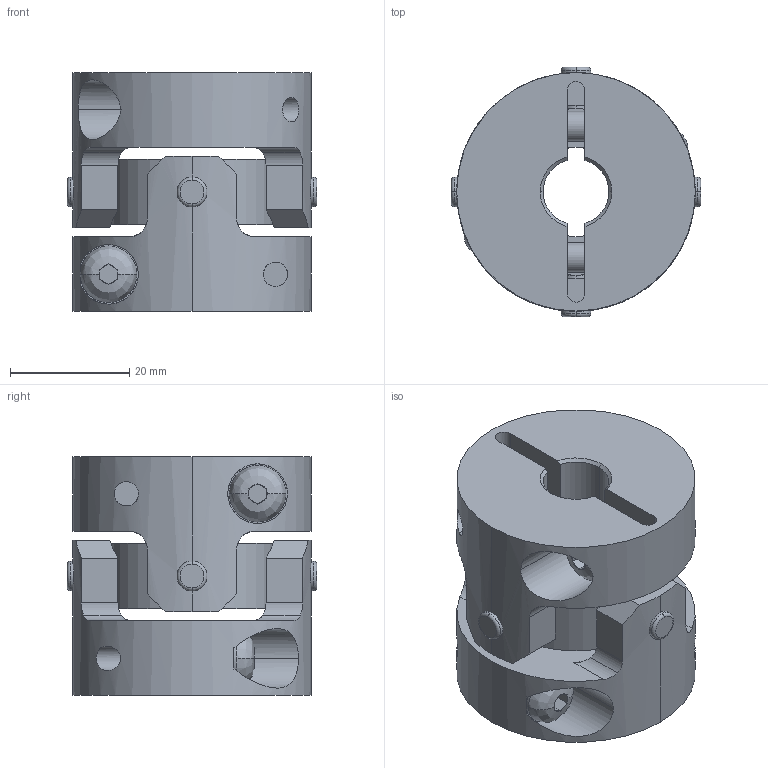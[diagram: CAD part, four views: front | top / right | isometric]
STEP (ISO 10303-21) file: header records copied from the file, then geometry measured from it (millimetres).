
FILE_DESCRIPTION((''),'2;1');
FILE_NAME('UA-40C-11×20.stp','2013-05-22T08:55:27',(''),(''),'AutoCAD STEP 2000i','AutoCAD 2000i',', , ');
FILE_SCHEMA(('CONFIG_CONTROL_DESIGN'));
Length unit declared in the file: millimetre
Products named in the file (7): UA-40C-8×18; 忣兜1; UA-4002-D18; BTN-M5; UA-4002-D08-1; UA-4002-D08; UA40-SEN
Assembly tree (8 placements, depth 3):
  UA-40C-8×18
    忣兜1
    UA-4002-D18
      BTN-M5
    UA-4002-D08-1
      BTN-M5
    UA-4002-D08
      BTN-M5
    UA40-SEN
Bounding box: 41.81 x 41.81 x 40 mm (x, y, z)
Volume: 32340.8 mm3; surface area: 15107.9 mm2
Topology: 1 solids, 1 shells, 252 faces, 654 edges, 412 vertices
Faces by surface type: plane 124, cylinder 96, cone 16, bspline 8, torus 8
Entity records: 9705 total; most frequent: CARTESIAN_POINT 3363, DIRECTION 1308, ORIENTED_EDGE 1308, EDGE_CURVE 654, AXIS2_PLACEMENT_3D 505, VERTEX_POINT 412, VECTOR 298, LINE 298
